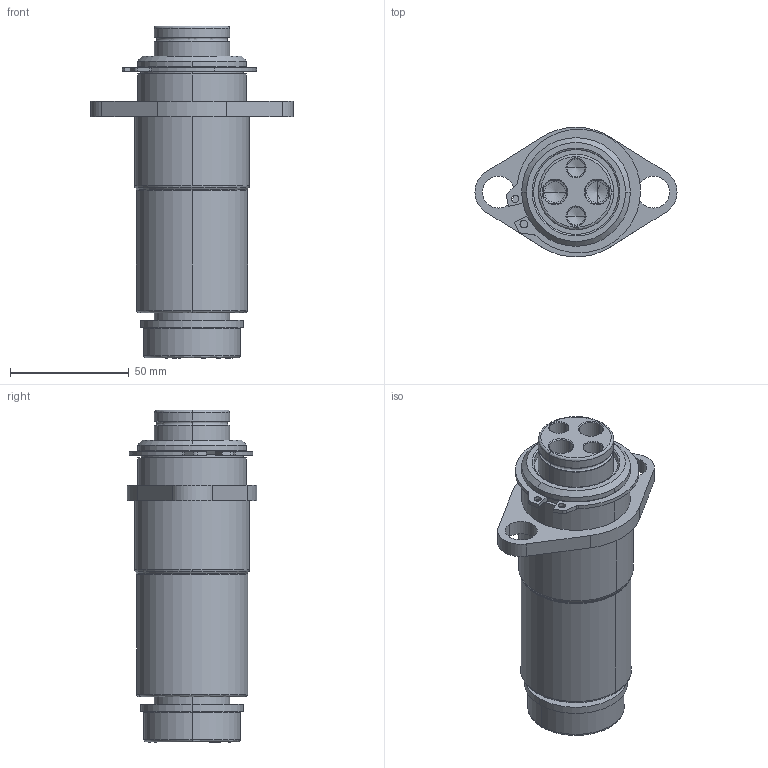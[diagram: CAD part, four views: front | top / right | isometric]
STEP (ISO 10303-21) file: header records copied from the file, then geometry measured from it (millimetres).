
FILE_DESCRIPTION (( 'STEP AP214' ), '1' );
FILE_NAME ('GK120-N4-1-TB-M-XXX.STEP', '2020-09-21T16:01:04', ( '' ), ( '' ), 'SwSTEP 2.0', 'SolidWorks 2017', '' );
FILE_SCHEMA (( 'AUTOMOTIVE_DESIGN' ));
Length unit declared in the file: inch
Products named in the file (7): GK1.25-N4-1-TB-Base; GK120-M-XXX-GuidePin; GK120-DampeningWasher; GK120-N4-1-TB-M-XXX; RetainingRing
Assembly tree (6 placements, depth 3):
  GK120-N4-1-TB-M-XXX
    GK1.25-N4-1-TB-Base
      GK1.25-N4-1-TB-Base
      RetainingRing
    GK120-M-XXX-GuidePin
      GK120-M-XXX-GuidePin
      GK120-DampeningWasher
Bounding box: 85.09 x 54.52 x 139.7 mm (x, y, z)
Volume: 220418.4 mm3; surface area: 54962 mm2
Topology: 4 solids, 4 shells, 137 faces, 323 edges, 196 vertices
Faces by surface type: cylinder 63, cone 30, plane 24, bspline 20
Entity records: 4978 total; most frequent: CARTESIAN_POINT 1291, DIRECTION 743, ORIENTED_EDGE 630, EDGE_CURVE 315, AXIS2_PLACEMENT_3D 310, VERTEX_POINT 196, CIRCLE 182, EDGE_LOOP 159
